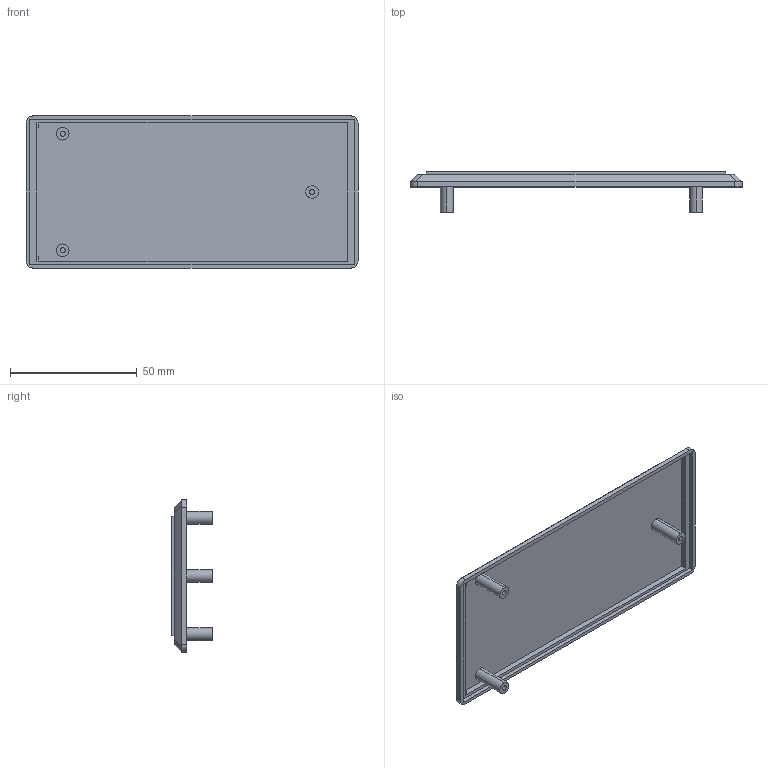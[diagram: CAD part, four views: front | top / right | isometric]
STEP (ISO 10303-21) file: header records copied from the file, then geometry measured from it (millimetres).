
FILE_DESCRIPTION (( 'STEP AP214' ), '1' );
FILE_NAME ('Tapa PP8.STEP', '2017-08-03T08:53:07', ( 'aaa' ), ( '' ), 'SwSTEP 2.0', 'SolidWorks 2013', '' );
FILE_SCHEMA (( 'AUTOMOTIVE_DESIGN' ));
Length unit declared in the file: millimetre
Products named in the file (1): Tapa PP8
Bounding box: 131 x 16 x 60 mm (x, y, z)
Volume: 18066.5 mm3; surface area: 19831.4 mm2
Topology: 1 solids, 1 shells, 64 faces, 156 edges, 104 vertices
Faces by surface type: plane 44, cylinder 20
Entity records: 1902 total; most frequent: CARTESIAN_POINT 373, ORIENTED_EDGE 312, DIRECTION 298, EDGE_CURVE 156, LINE 112, VECTOR 112, VERTEX_POINT 104, AXIS2_PLACEMENT_3D 93
